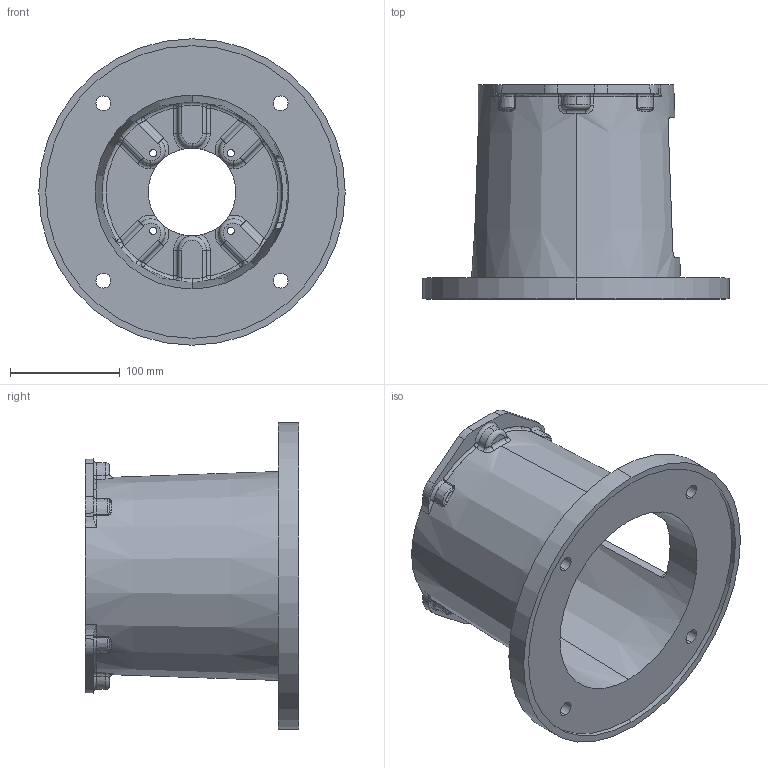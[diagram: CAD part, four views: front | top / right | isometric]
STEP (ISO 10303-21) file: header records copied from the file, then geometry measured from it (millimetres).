
FILE_DESCRIPTION (( 'STEP AP203' ), '1' );
FILE_NAME ('M2847580MS.STEP', '2015-01-19T16:33:45', ( '' ), ( '' ), 'SwSTEP 2.0', 'SolidWorks 2014', '' );
FILE_SCHEMA (( 'CONFIG_CONTROL_DESIGN' ));
Length unit declared in the file: inch
Products named in the file (1): M2847580MS
Bounding box: 279.4 x 195.07 x 279.4 mm (x, y, z)
Volume: 1470752.6 mm3; surface area: 329517.2 mm2
Topology: 1 solids, 1 shells, 335 faces, 841 edges, 490 vertices
Faces by surface type: torus 97, cylinder 82, bspline 64, plane 50, sphere 24, cone 18
Entity records: 13625 total; most frequent: CARTESIAN_POINT 5971, ORIENTED_EDGE 1642, DIRECTION 1610, EDGE_CURVE 821, AXIS2_PLACEMENT_3D 727, VERTEX_POINT 490, CIRCLE 455, EDGE_LOOP 357
